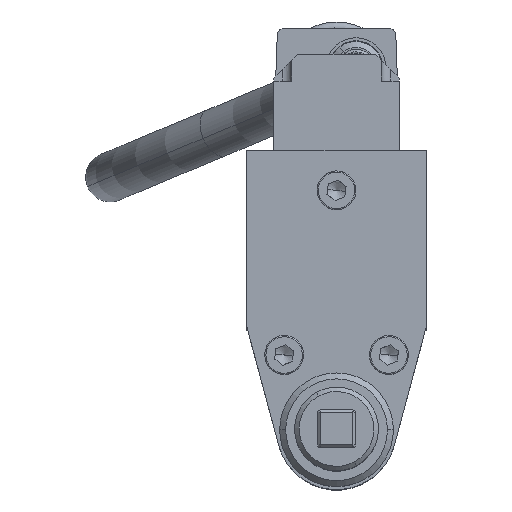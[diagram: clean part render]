
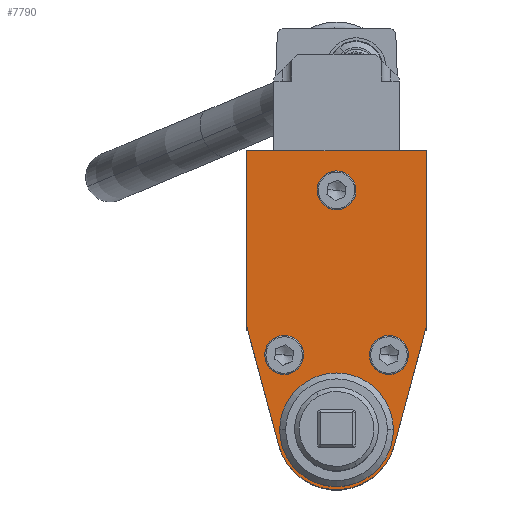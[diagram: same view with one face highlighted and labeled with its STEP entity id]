
A CAD part, top view. The second image highlights one B-rep face of the part: STEP entity #7790.
In plain terms, the highlighted planar face has unit normal (0, 0, 1).
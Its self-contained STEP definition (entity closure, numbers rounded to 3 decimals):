
#7524=CARTESIAN_POINT('Axis2P3D Location',(0.,16.77,488.1)) ;
#7528=CARTESIAN_POINT('Vertex',(-3.794,18.843,488.1)) ;
#7530=CARTESIAN_POINT('Vertex',(3.794,14.697,488.1)) ;
#7550=CARTESIAN_POINT('Axis2P3D Location',(0.,16.77,488.1)) ;
#7653=CARTESIAN_POINT('Axis2P3D Location',(17.5,-38.23,488.1)) ;
#7657=CARTESIAN_POINT('Vertex',(13.706,-36.157,488.1)) ;
#7659=CARTESIAN_POINT('Vertex',(21.294,-40.303,488.1)) ;
#7679=CARTESIAN_POINT('Axis2P3D Location',(17.5,-38.23,488.1)) ;
#7691=CARTESIAN_POINT('Axis2P3D Location',(0.,0.,488.1)) ;
#7696=CARTESIAN_POINT('Line Origine',(0.,30.,488.1)) ;
#7700=CARTESIAN_POINT('Vertex',(30.,30.,488.1)) ;
#7702=CARTESIAN_POINT('Vertex',(-30.,30.,488.1)) ;
#7705=CARTESIAN_POINT('Line Origine',(-30.,0.729,488.1)) ;
#7709=CARTESIAN_POINT('Vertex',(-30.,-28.543,488.1)) ;
#7712=CARTESIAN_POINT('Line Origine',(-24.659,-48.474,488.1)) ;
#7716=CARTESIAN_POINT('Vertex',(-19.319,-68.406,488.1)) ;
#7719=CARTESIAN_POINT('Axis2P3D Location',(0.,-63.23,488.1)) ;
#7723=CARTESIAN_POINT('Vertex',(19.319,-68.406,488.1)) ;
#7726=CARTESIAN_POINT('Line Origine',(24.659,-48.474,488.1)) ;
#7730=CARTESIAN_POINT('Vertex',(30.,-28.543,488.1)) ;
#7733=CARTESIAN_POINT('Line Origine',(30.,0.729,488.1)) ;
#7754=CARTESIAN_POINT('Axis2P3D Location',(-17.5,-38.23,488.1)) ;
#7758=CARTESIAN_POINT('Vertex',(-13.706,-40.303,488.1)) ;
#7760=CARTESIAN_POINT('Vertex',(-21.294,-36.157,488.1)) ;
#7763=CARTESIAN_POINT('Axis2P3D Location',(-17.5,-38.23,488.1)) ;
#7772=CARTESIAN_POINT('Axis2P3D Location',(0.,-63.23,488.1)) ;
#7776=CARTESIAN_POINT('Vertex',(19.,-63.23,488.1)) ;
#7778=CARTESIAN_POINT('Vertex',(-19.,-63.23,488.1)) ;
#7781=CARTESIAN_POINT('Axis2P3D Location',(0.,-63.23,488.1)) ;
#7525=DIRECTION('Axis2P3D Direction',(0.,0.,1.)) ;
#7551=DIRECTION('Axis2P3D Direction',(0.,0.,1.)) ;
#7654=DIRECTION('Axis2P3D Direction',(0.,0.,1.)) ;
#7680=DIRECTION('Axis2P3D Direction',(0.,0.,1.)) ;
#7692=DIRECTION('Axis2P3D Direction',(0.,0.,-1.)) ;
#7693=DIRECTION('Axis2P3D XDirection',(-1.,0.,0.)) ;
#7697=DIRECTION('Vector Direction',(-1.,0.,0.)) ;
#7706=DIRECTION('Vector Direction',(0.,1.,0.)) ;
#7713=DIRECTION('Vector Direction',(-0.259,0.966,0.)) ;
#7720=DIRECTION('Axis2P3D Direction',(0.,0.,-1.)) ;
#7727=DIRECTION('Vector Direction',(0.259,0.966,0.)) ;
#7734=DIRECTION('Vector Direction',(0.,-1.,0.)) ;
#7755=DIRECTION('Axis2P3D Direction',(0.,0.,-1.)) ;
#7764=DIRECTION('Axis2P3D Direction',(0.,0.,-1.)) ;
#7773=DIRECTION('Axis2P3D Direction',(0.,0.,-1.)) ;
#7782=DIRECTION('Axis2P3D Direction',(0.,0.,-1.)) ;
#7526=AXIS2_PLACEMENT_3D('Circle Axis2P3D',#7524,#7525,$) ;
#7552=AXIS2_PLACEMENT_3D('Circle Axis2P3D',#7550,#7551,$) ;
#7655=AXIS2_PLACEMENT_3D('Circle Axis2P3D',#7653,#7654,$) ;
#7681=AXIS2_PLACEMENT_3D('Circle Axis2P3D',#7679,#7680,$) ;
#7694=AXIS2_PLACEMENT_3D('Plane Axis2P3D',#7691,#7692,#7693) ;
#7721=AXIS2_PLACEMENT_3D('Circle Axis2P3D',#7719,#7720,$) ;
#7756=AXIS2_PLACEMENT_3D('Circle Axis2P3D',#7754,#7755,$) ;
#7765=AXIS2_PLACEMENT_3D('Circle Axis2P3D',#7763,#7764,$) ;
#7774=AXIS2_PLACEMENT_3D('Circle Axis2P3D',#7772,#7773,$) ;
#7783=AXIS2_PLACEMENT_3D('Circle Axis2P3D',#7781,#7782,$) ;
#7739=ORIENTED_EDGE('',*,*,#7704,.T.) ;
#7740=ORIENTED_EDGE('',*,*,#7711,.T.) ;
#7741=ORIENTED_EDGE('',*,*,#7718,.T.) ;
#7742=ORIENTED_EDGE('',*,*,#7725,.T.) ;
#7743=ORIENTED_EDGE('',*,*,#7732,.T.) ;
#7744=ORIENTED_EDGE('',*,*,#7737,.T.) ;
#7747=ORIENTED_EDGE('',*,*,#7554,.T.) ;
#7748=ORIENTED_EDGE('',*,*,#7532,.T.) ;
#7751=ORIENTED_EDGE('',*,*,#7683,.T.) ;
#7752=ORIENTED_EDGE('',*,*,#7661,.T.) ;
#7769=ORIENTED_EDGE('',*,*,#7762,.T.) ;
#7770=ORIENTED_EDGE('',*,*,#7767,.T.) ;
#7787=ORIENTED_EDGE('',*,*,#7780,.T.) ;
#7788=ORIENTED_EDGE('',*,*,#7785,.T.) ;
#7749=FACE_BOUND('',#7746,.T.) ;
#7753=FACE_BOUND('',#7750,.T.) ;
#7771=FACE_BOUND('',#7768,.T.) ;
#7789=FACE_BOUND('',#7786,.T.) ;
#7698=VECTOR('Line Direction',#7697,1.) ;
#7707=VECTOR('Line Direction',#7706,1.) ;
#7714=VECTOR('Line Direction',#7713,1.) ;
#7728=VECTOR('Line Direction',#7727,1.) ;
#7735=VECTOR('Line Direction',#7734,1.) ;
#7790=ADVANCED_FACE('',(#7745,#7749,#7753,#7771,#7789),#7695,.F.) ;
#7527=CIRCLE('generated circle',#7526,4.324) ;
#7553=CIRCLE('generated circle',#7552,4.324) ;
#7656=CIRCLE('generated circle',#7655,4.324) ;
#7682=CIRCLE('generated circle',#7681,4.324) ;
#7722=CIRCLE('generated circle',#7721,20.) ;
#7757=CIRCLE('generated circle',#7756,4.324) ;
#7766=CIRCLE('generated circle',#7765,4.324) ;
#7775=CIRCLE('generated circle',#7774,19.) ;
#7784=CIRCLE('generated circle',#7783,19.) ;
#7532=EDGE_CURVE('',#7529,#7531,#7527,.F.) ;
#7554=EDGE_CURVE('',#7531,#7529,#7553,.F.) ;
#7661=EDGE_CURVE('',#7658,#7660,#7656,.F.) ;
#7683=EDGE_CURVE('',#7660,#7658,#7682,.F.) ;
#7704=EDGE_CURVE('',#7701,#7703,#7699,.T.) ;
#7711=EDGE_CURVE('',#7703,#7710,#7708,.F.) ;
#7718=EDGE_CURVE('',#7710,#7717,#7715,.F.) ;
#7725=EDGE_CURVE('',#7717,#7724,#7722,.F.) ;
#7732=EDGE_CURVE('',#7724,#7731,#7729,.T.) ;
#7737=EDGE_CURVE('',#7731,#7701,#7736,.F.) ;
#7762=EDGE_CURVE('',#7759,#7761,#7757,.T.) ;
#7767=EDGE_CURVE('',#7761,#7759,#7766,.T.) ;
#7780=EDGE_CURVE('',#7777,#7779,#7775,.T.) ;
#7785=EDGE_CURVE('',#7779,#7777,#7784,.T.) ;
#7738=EDGE_LOOP('',(#7739,#7740,#7741,#7742,#7743,#7744)) ;
#7746=EDGE_LOOP('',(#7747,#7748)) ;
#7750=EDGE_LOOP('',(#7751,#7752)) ;
#7768=EDGE_LOOP('',(#7769,#7770)) ;
#7786=EDGE_LOOP('',(#7787,#7788)) ;
#7745=FACE_OUTER_BOUND('',#7738,.T.) ;
#7699=LINE('Line',#7696,#7698) ;
#7708=LINE('Line',#7705,#7707) ;
#7715=LINE('Line',#7712,#7714) ;
#7729=LINE('Line',#7726,#7728) ;
#7736=LINE('Line',#7733,#7735) ;
#7695=PLANE('Plane',#7694) ;
#7529=VERTEX_POINT('',#7528) ;
#7531=VERTEX_POINT('',#7530) ;
#7658=VERTEX_POINT('',#7657) ;
#7660=VERTEX_POINT('',#7659) ;
#7701=VERTEX_POINT('',#7700) ;
#7703=VERTEX_POINT('',#7702) ;
#7710=VERTEX_POINT('',#7709) ;
#7717=VERTEX_POINT('',#7716) ;
#7724=VERTEX_POINT('',#7723) ;
#7731=VERTEX_POINT('',#7730) ;
#7759=VERTEX_POINT('',#7758) ;
#7761=VERTEX_POINT('',#7760) ;
#7777=VERTEX_POINT('',#7776) ;
#7779=VERTEX_POINT('',#7778) ;
